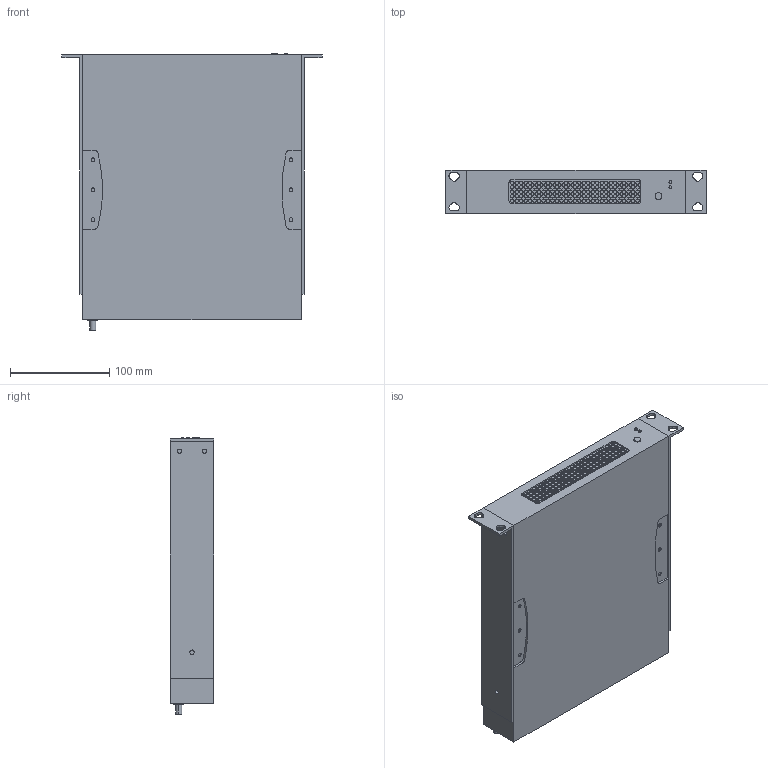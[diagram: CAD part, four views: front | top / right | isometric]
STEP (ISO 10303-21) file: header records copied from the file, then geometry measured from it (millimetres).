
FILE_DESCRIPTION (( 'STEP AP214' ), '1' );
FILE_NAME ('FG-901638-3D-A (HALF RACK MOUNT).STEP', '2025-12-18T23:48:24', ( '' ), ( '' ), 'SwSTEP 2.0', 'SolidWorks 2023', '' );
FILE_SCHEMA (( 'AUTOMOTIVE_DESIGN' ));
Length unit declared in the file: millimetre
Products named in the file (1): FG-901638-3D-A (HALF RACK MOUNT)
Bounding box: 261.86 x 43.6 x 277.84 mm (x, y, z)
Volume: 2605962.7 mm3; surface area: 212337.8 mm2
Topology: 3 solids, 3 shells, 1039 faces, 2388 edges, 1592 vertices
Faces by surface type: plane 667, cylinder 372
Entity records: 29527 total; most frequent: DIRECTION 5212, CARTESIAN_POINT 5020, ORIENTED_EDGE 4776, EDGE_CURVE 2388, AXIS2_PLACEMENT_3D 1784, LINE 1644, VECTOR 1644, VERTEX_POINT 1592
